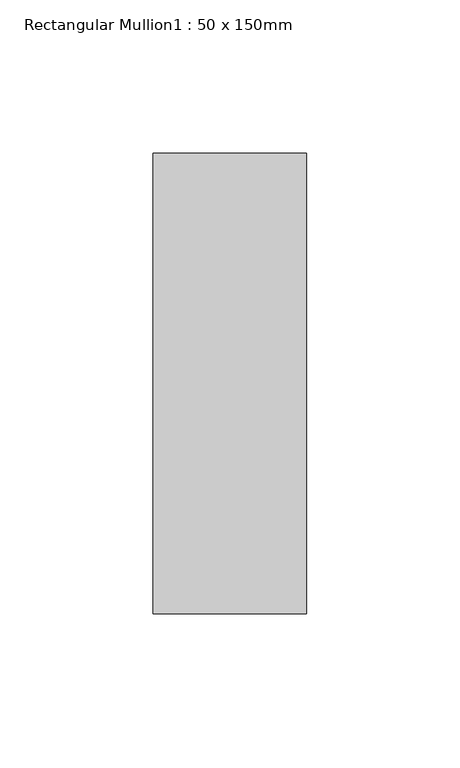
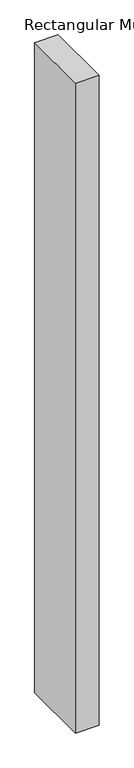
"""IFC4 building model written with IfcOpenShell, lengths in millimetres: member geometry, Rectangular Mullion1 : 50 x 150mm."""

from ifc_helpers import new_model, si_unit, frame, origin, place, context, project, spatial, polyline, outline, extrude, source, transform, mapped, element, save


def rectangular_mullion1_50_x_150mm_eab770d3(model_context):
    return source(origin(), model_context, "Body", "SweptSolid", [
        extrude(outline(polyline([(25.0, 75.0), (25.0, -75.0), (-25.0, -75.0), (-25.0, 75.0), (25.0, 75.0)])), frame((0.0, 0.0, -1460.0), z_axis=(0.0, 0.0, 1.0), x_axis=(1.0, 0.0, 0.0)), (0.0, 0.0, 1.0), 1460.0),
    ])


if __name__ == "__main__":
    model = new_model("IFC4")
    model_context = context("Model", 3, world=origin())
    ifc_project = project(units=[si_unit("LENGTHUNIT", "METRE", prefix="MILLI")], contexts=[model_context])
    site = spatial("IfcSite", under=ifc_project)
    building = spatial("IfcBuilding", under=site)
    placement = place(None, origin())
    rectangular_mullion1_50_x_150mm_shape = rectangular_mullion1_50_x_150mm_eab770d3(model_context)
    element("IfcMember", 1, ObjectType="Rectangular Mullion1 : 50 x 150mm", at=placement, inside=building, context=model_context, shape_type="MappedRepresentation", body=[
        mapped(rectangular_mullion1_50_x_150mm_shape, transform((0.0, 0.0, 0.0), x_axis=(1.0, 0.0, 0.0), y_axis=(0.0, 1.0, 0.0), z_axis=(0.0, 0.0, 1.0))),
    ])
    save(model, "model.ifc")
